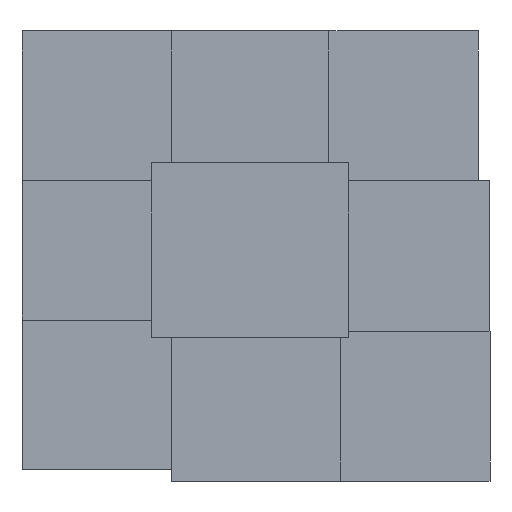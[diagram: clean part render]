
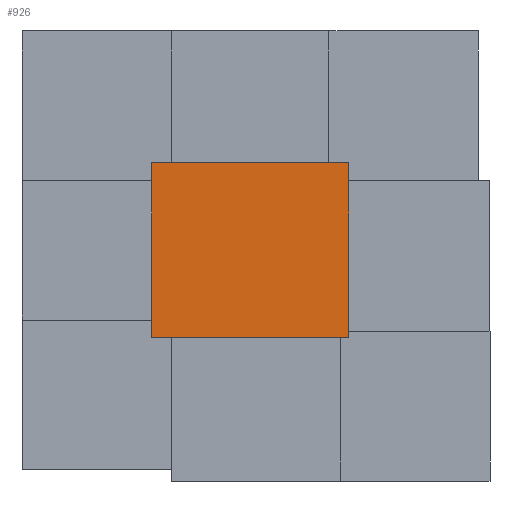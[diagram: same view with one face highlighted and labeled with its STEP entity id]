
A CAD part, left-side view. The second image highlights one B-rep face of the part: STEP entity #926.
In plain terms, the highlighted planar face has unit normal (-1, 0, 0).
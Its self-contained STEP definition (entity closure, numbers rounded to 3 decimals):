
#808=CARTESIAN_POINT('Line Origine',(0.,0.,58.5)) ;
#812=CARTESIAN_POINT('Vertex',(0.,0.,0.)) ;
#814=CARTESIAN_POINT('Vertex',(0.,0.,117.)) ;
#883=CARTESIAN_POINT('Vertex',(0.,132.,0.)) ;
#886=CARTESIAN_POINT('Line Origine',(0.,132.,58.5)) ;
#890=CARTESIAN_POINT('Vertex',(0.,132.,117.)) ;
#905=CARTESIAN_POINT('Axis2P3D Location',(0.,132.,0.)) ;
#910=CARTESIAN_POINT('Line Origine',(0.,66.,0.)) ;
#915=CARTESIAN_POINT('Line Origine',(0.,66.,117.)) ;
#809=DIRECTION('Vector Direction',(0.,0.,1.)) ;
#887=DIRECTION('Vector Direction',(0.,0.,1.)) ;
#906=DIRECTION('Axis2P3D Direction',(-1.,0.,0.)) ;
#907=DIRECTION('Axis2P3D XDirection',(0.,-1.,0.)) ;
#911=DIRECTION('Vector Direction',(0.,-1.,0.)) ;
#916=DIRECTION('Vector Direction',(0.,-1.,0.)) ;
#908=AXIS2_PLACEMENT_3D('Plane Axis2P3D',#905,#906,#907) ;
#921=ORIENTED_EDGE('',*,*,#892,.F.) ;
#922=ORIENTED_EDGE('',*,*,#914,.T.) ;
#923=ORIENTED_EDGE('',*,*,#816,.T.) ;
#924=ORIENTED_EDGE('',*,*,#919,.F.) ;
#810=VECTOR('Line Direction',#809,1.) ;
#888=VECTOR('Line Direction',#887,1.) ;
#912=VECTOR('Line Direction',#911,1.) ;
#917=VECTOR('Line Direction',#916,1.) ;
#926=ADVANCED_FACE('Body.2-molde-superior',(#925),#909,.T.) ;
#816=EDGE_CURVE('',#813,#815,#811,.T.) ;
#892=EDGE_CURVE('',#884,#891,#889,.T.) ;
#914=EDGE_CURVE('',#884,#813,#913,.T.) ;
#919=EDGE_CURVE('',#891,#815,#918,.T.) ;
#920=EDGE_LOOP('',(#921,#922,#923,#924)) ;
#925=FACE_OUTER_BOUND('',#920,.T.) ;
#811=LINE('Line',#808,#810) ;
#889=LINE('Line',#886,#888) ;
#913=LINE('Line',#910,#912) ;
#918=LINE('Line',#915,#917) ;
#909=PLANE('',#908) ;
#813=VERTEX_POINT('',#812) ;
#815=VERTEX_POINT('',#814) ;
#884=VERTEX_POINT('',#883) ;
#891=VERTEX_POINT('',#890) ;
